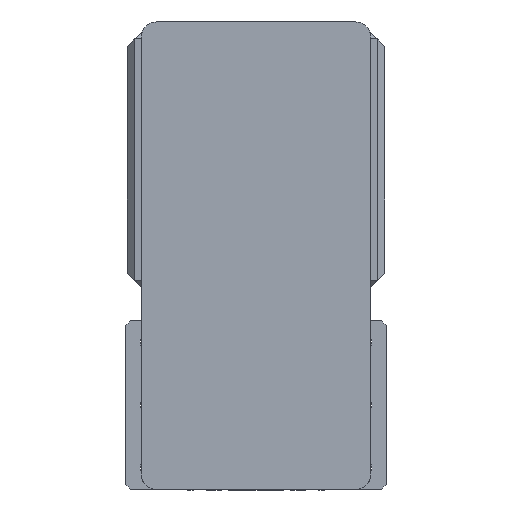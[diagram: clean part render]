
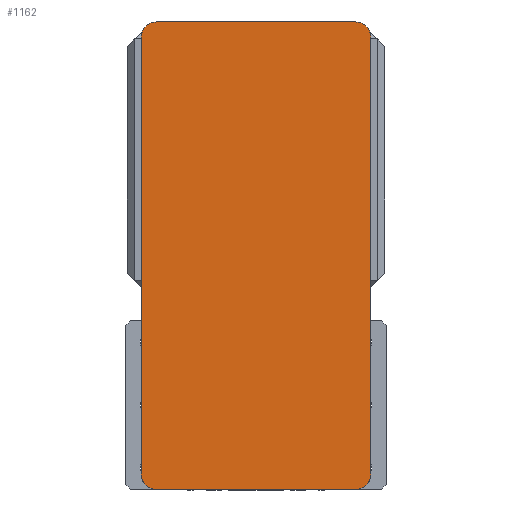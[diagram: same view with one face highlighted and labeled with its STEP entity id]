
A CAD part, left-side view. The second image highlights one B-rep face of the part: STEP entity #1162.
In plain terms, the highlighted planar face has unit normal (-1, 0, 0) as drawn and (0, 0, 1) by its records, which use the part's own axes.
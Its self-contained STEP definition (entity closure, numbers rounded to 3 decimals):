
#98 = CARTESIAN_POINT ( 'NONE',  ( -75., 152.5, 105. ) ) ;
#241 = EDGE_CURVE ( 'NONE', #14821, #8735, #4536, .T. ) ;
#1015 = DIRECTION ( 'NONE',  ( 0., 0., 1. ) ) ;
#1089 = CARTESIAN_POINT ( 'NONE',  ( -75., -142.5, 105. ) ) ;
#1115 = ORIENTED_EDGE ( 'NONE', *, *, #4022, .T. ) ;
#1162 = ADVANCED_FACE ( 'NONE', ( #15216 ), #6747, .T. ) ;
#1361 = VECTOR ( 'NONE', #12048, 1000. ) ;
#1510 = CARTESIAN_POINT ( 'NONE',  ( -65., 152.5, 105. ) ) ;
#1656 = AXIS2_PLACEMENT_3D ( 'NONE', #4519, #15419, #6089 ) ;
#1667 = DIRECTION ( 'NONE',  ( 0., -1., 0. ) ) ;
#1732 = CARTESIAN_POINT ( 'NONE',  ( 75., 142.5, 105. ) ) ;
#2106 = CARTESIAN_POINT ( 'NONE',  ( -75., -152.5, 105. ) ) ;
#2212 = EDGE_CURVE ( 'NONE', #8735, #13657, #4467, .T. ) ;
#2320 = EDGE_CURVE ( 'NONE', #12854, #4914, #2992, .T. ) ;
#2443 = VERTEX_POINT ( 'NONE', #1510 ) ;
#2992 = CIRCLE ( 'NONE', #1656, 10. ) ;
#3651 = EDGE_CURVE ( 'NONE', #2443, #12877, #17363, .T. ) ;
#4022 = EDGE_CURVE ( 'NONE', #15801, #14821, #7427, .T. ) ;
#4033 = ORIENTED_EDGE ( 'NONE', *, *, #2212, .T. ) ;
#4318 = CARTESIAN_POINT ( 'NONE',  ( 65., -142.5, 105. ) ) ;
#4467 = CIRCLE ( 'NONE', #19830, 10. ) ;
#4519 = CARTESIAN_POINT ( 'NONE',  ( 65., 142.5, 105. ) ) ;
#4536 = LINE ( 'NONE', #2106, #1361 ) ;
#4822 = CARTESIAN_POINT ( 'NONE',  ( -65., -152.5, 105. ) ) ;
#4843 = VECTOR ( 'NONE', #1667, 1000. ) ;
#4914 = VERTEX_POINT ( 'NONE', #13549 ) ;
#5892 = DIRECTION ( 'NONE',  ( 1., 0., 0. ) ) ;
#6089 = DIRECTION ( 'NONE',  ( 1., 0., 0. ) ) ;
#6159 = CARTESIAN_POINT ( 'NONE',  ( -75., 152.5, 105. ) ) ;
#6520 = CARTESIAN_POINT ( 'NONE',  ( -75., 142.5, 105. ) ) ;
#6747 = PLANE ( 'NONE',  #18515 ) ;
#7427 = CIRCLE ( 'NONE', #14079, 10. ) ;
#7785 = ORIENTED_EDGE ( 'NONE', *, *, #3651, .T. ) ;
#7803 = DIRECTION ( 'NONE',  ( 0., 0., 1. ) ) ;
#8413 = VECTOR ( 'NONE', #15475, 1000. ) ;
#8735 = VERTEX_POINT ( 'NONE', #12850 ) ;
#10370 = CARTESIAN_POINT ( 'NONE',  ( -65., -142.5, 105. ) ) ;
#10446 = ORIENTED_EDGE ( 'NONE', *, *, #14106, .T. ) ;
#11453 = CARTESIAN_POINT ( 'NONE',  ( 75., -142.5, 105. ) ) ;
#11554 = CARTESIAN_POINT ( 'NONE',  ( 75., 152.5, 105. ) ) ;
#11918 = DIRECTION ( 'NONE',  ( 1., 0., 0. ) ) ;
#12048 = DIRECTION ( 'NONE',  ( 1., 0., 0. ) ) ;
#12392 = EDGE_CURVE ( 'NONE', #13657, #12854, #17703, .T. ) ;
#12850 = CARTESIAN_POINT ( 'NONE',  ( 65., -152.5, 105. ) ) ;
#12854 = VERTEX_POINT ( 'NONE', #1732 ) ;
#12877 = VERTEX_POINT ( 'NONE', #6520 ) ;
#13525 = ORIENTED_EDGE ( 'NONE', *, *, #17903, .T. ) ;
#13526 = VECTOR ( 'NONE', #14684, 1000. ) ;
#13549 = CARTESIAN_POINT ( 'NONE',  ( 65., 152.5, 105. ) ) ;
#13657 = VERTEX_POINT ( 'NONE', #11453 ) ;
#14079 = AXIS2_PLACEMENT_3D ( 'NONE', #10370, #1015, #11918 ) ;
#14106 = EDGE_CURVE ( 'NONE', #4914, #2443, #16672, .T. ) ;
#14684 = DIRECTION ( 'NONE',  ( 0., 1., 0. ) ) ;
#14821 = VERTEX_POINT ( 'NONE', #4822 ) ;
#15216 = FACE_OUTER_BOUND ( 'NONE', #15521, .T. ) ;
#15221 = DIRECTION ( 'NONE',  ( 0., 0., 1. ) ) ;
#15419 = DIRECTION ( 'NONE',  ( 0., 0., 1. ) ) ;
#15475 = DIRECTION ( 'NONE',  ( -1., 0., 0. ) ) ;
#15521 = EDGE_LOOP ( 'NONE', ( #18314, #4033, #16881, #17455, #10446, #7785, #13525, #1115 ) ) ;
#15801 = VERTEX_POINT ( 'NONE', #1089 ) ;
#16014 = CARTESIAN_POINT ( 'NONE',  ( 0., 0., 105. ) ) ;
#16672 = LINE ( 'NONE', #6159, #8413 ) ;
#16881 = ORIENTED_EDGE ( 'NONE', *, *, #12392, .T. ) ;
#17141 = CARTESIAN_POINT ( 'NONE',  ( -65., 142.5, 105. ) ) ;
#17278 = LINE ( 'NONE', #98, #4843 ) ;
#17363 = CIRCLE ( 'NONE', #17618, 10. ) ;
#17455 = ORIENTED_EDGE ( 'NONE', *, *, #2320, .T. ) ;
#17618 = AXIS2_PLACEMENT_3D ( 'NONE', #17141, #7803, #18715 ) ;
#17703 = LINE ( 'NONE', #11554, #13526 ) ;
#17903 = EDGE_CURVE ( 'NONE', #12877, #15801, #17278, .T. ) ;
#18314 = ORIENTED_EDGE ( 'NONE', *, *, #241, .T. ) ;
#18515 = AXIS2_PLACEMENT_3D ( 'NONE', #16014, #19176, #19245 ) ;
#18715 = DIRECTION ( 'NONE',  ( 1., 0., 0. ) ) ;
#19176 = DIRECTION ( 'NONE',  ( 0., 0., 1. ) ) ;
#19245 = DIRECTION ( 'NONE',  ( 1., 0., 0. ) ) ;
#19830 = AXIS2_PLACEMENT_3D ( 'NONE', #4318, #15221, #5892 ) ;
